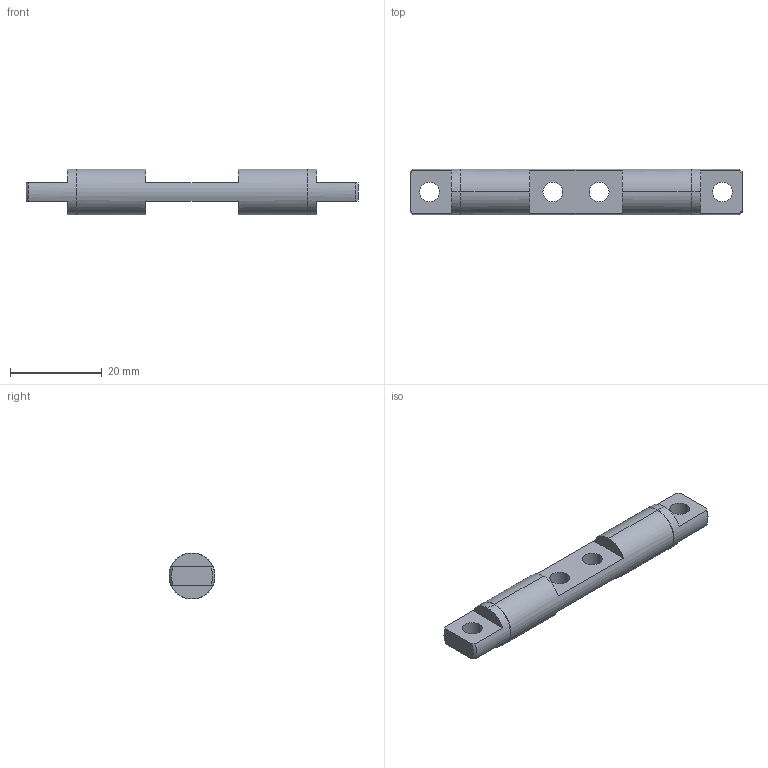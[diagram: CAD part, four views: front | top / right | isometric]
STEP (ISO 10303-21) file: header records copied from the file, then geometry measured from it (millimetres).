
FILE_DESCRIPTION (( 'STEP AP203' ), '1' );
FILE_NAME ('XG11-128.STEP', '2025-04-01T08:57:04', ( '微软用户' ), ( '微软中国' ), 'SwSTEP 2.0', 'SolidWorks 2024', '' );
FILE_SCHEMA (( 'CONFIG_CONTROL_DESIGN' ));
Length unit declared in the file: millimetre
Products named in the file (1): XG11-128
Bounding box: 72.2 x 10 x 10 mm (x, y, z)
Volume: 3925.9 mm3; surface area: 2417.2 mm2
Topology: 1 solids, 1 shells, 42 faces, 108 edges, 68 vertices
Faces by surface type: plane 16, cylinder 14, torus 8, cone 4
Entity records: 1397 total; most frequent: DIRECTION 246, CARTESIAN_POINT 243, ORIENTED_EDGE 216, EDGE_CURVE 108, AXIS2_PLACEMENT_3D 103, VERTEX_POINT 68, CIRCLE 60, EDGE_LOOP 50
